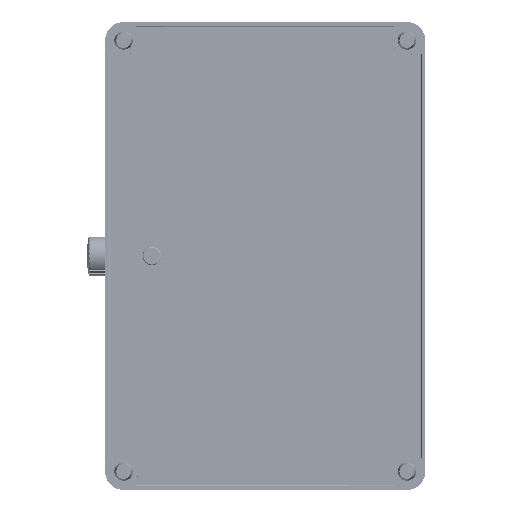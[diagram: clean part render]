
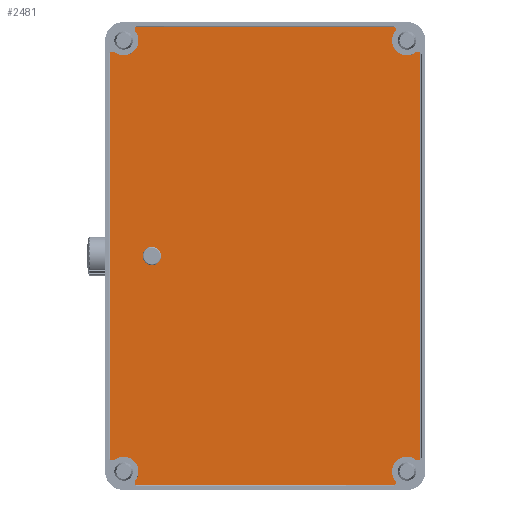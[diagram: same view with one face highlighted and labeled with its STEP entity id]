
A CAD part, top view. The second image highlights one B-rep face of the part: STEP entity #2481.
In plain terms, the highlighted planar face has unit normal (0, 0, 1).
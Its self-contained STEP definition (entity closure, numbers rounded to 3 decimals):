
#1355=DIRECTION('',(0.,1.,0.));
#1356=VECTOR('',#1355,330.472);
#1357=CARTESIAN_POINT('',(-406.905,494.301,344.));
#1358=LINE('',#1357,#1356);
#1370=CARTESIAN_POINT('',(-429.905,843.537,344.));
#1371=DIRECTION('',(0.,0.,-1.));
#1372=DIRECTION('',(0.745,0.667,0.));
#1373=AXIS2_PLACEMENT_3D('',#1370,#1371,#1372);
#1375=CARTESIAN_POINT('',(-429.905,843.537,344.));
#1376=DIRECTION('',(0.,0.,-1.));
#1377=DIRECTION('',(1.,0.,0.));
#1378=AXIS2_PLACEMENT_3D('',#1375,#1376,#1377);
#1380=CARTESIAN_POINT('',(-417.905,834.537,344.));
#1381=DIRECTION('',(0.,0.,1.));
#1382=DIRECTION('',(-0.8,0.6,0.));
#1383=AXIS2_PLACEMENT_3D('',#1380,#1381,#1382);
#1385=CARTESIAN_POINT('',(-417.905,834.537,344.));
#1386=DIRECTION('',(0.,0.,1.));
#1387=DIRECTION('',(-1.,0.,0.));
#1388=AXIS2_PLACEMENT_3D('',#1385,#1386,#1387);
#1390=CARTESIAN_POINT('',(-408.905,822.537,344.));
#1391=DIRECTION('',(0.,0.,-1.));
#1392=DIRECTION('',(-0.6,0.8,0.));
#1393=AXIS2_PLACEMENT_3D('',#1390,#1391,#1392);
#1395=CARTESIAN_POINT('',(-408.905,496.537,344.));
#1396=DIRECTION('',(0.,0.,-1.));
#1397=DIRECTION('',(0.667,-0.745,0.));
#1398=AXIS2_PLACEMENT_3D('',#1395,#1396,#1397);
#1400=CARTESIAN_POINT('',(-417.905,484.537,344.));
#1401=DIRECTION('',(0.,0.,1.));
#1402=DIRECTION('',(0.6,0.8,0.));
#1403=AXIS2_PLACEMENT_3D('',#1400,#1401,#1402);
#1405=CARTESIAN_POINT('',(-417.905,484.537,344.));
#1406=DIRECTION('',(0.,0.,1.));
#1407=DIRECTION('',(-1.,0.,0.));
#1408=AXIS2_PLACEMENT_3D('',#1405,#1406,#1407);
#1410=CARTESIAN_POINT('',(-429.905,475.537,344.));
#1411=DIRECTION('',(0.,0.,-1.));
#1412=DIRECTION('',(0.8,0.6,0.));
#1413=AXIS2_PLACEMENT_3D('',#1410,#1411,#1412);
#1415=CARTESIAN_POINT('',(-429.905,475.537,344.));
#1416=DIRECTION('',(0.,0.,-1.));
#1417=DIRECTION('',(1.,0.,0.));
#1418=AXIS2_PLACEMENT_3D('',#1415,#1416,#1417);
#1420=CARTESIAN_POINT('',(-635.905,475.537,344.));
#1421=DIRECTION('',(0.,0.,-1.));
#1422=DIRECTION('',(-0.745,-0.667,0.));
#1423=AXIS2_PLACEMENT_3D('',#1420,#1421,#1422);
#1425=CARTESIAN_POINT('',(-635.905,475.537,344.));
#1426=DIRECTION('',(0.,0.,-1.));
#1427=DIRECTION('',(-1.,0.,0.));
#1428=AXIS2_PLACEMENT_3D('',#1425,#1426,#1427);
#1430=CARTESIAN_POINT('',(-647.905,484.537,344.));
#1431=DIRECTION('',(0.,0.,1.));
#1432=DIRECTION('',(0.8,-0.6,0.));
#1433=AXIS2_PLACEMENT_3D('',#1430,#1431,#1432);
#1435=CARTESIAN_POINT('',(-647.905,484.537,344.));
#1436=DIRECTION('',(0.,0.,1.));
#1437=DIRECTION('',(1.,0.,0.));
#1438=AXIS2_PLACEMENT_3D('',#1435,#1436,#1437);
#1440=CARTESIAN_POINT('',(-656.905,496.537,344.));
#1441=DIRECTION('',(0.,0.,-1.));
#1442=DIRECTION('',(0.6,-0.8,0.));
#1443=AXIS2_PLACEMENT_3D('',#1440,#1441,#1442);
#1445=CARTESIAN_POINT('',(-656.905,822.537,344.));
#1446=DIRECTION('',(0.,0.,-1.));
#1447=DIRECTION('',(-0.667,0.745,0.));
#1448=AXIS2_PLACEMENT_3D('',#1445,#1446,#1447);
#1450=CARTESIAN_POINT('',(-647.905,834.537,344.));
#1451=DIRECTION('',(0.,0.,1.));
#1452=DIRECTION('',(-0.6,-0.8,0.));
#1453=AXIS2_PLACEMENT_3D('',#1450,#1451,#1452);
#1455=CARTESIAN_POINT('',(-647.905,834.537,344.));
#1456=DIRECTION('',(0.,0.,1.));
#1457=DIRECTION('',(1.,0.,0.));
#1458=AXIS2_PLACEMENT_3D('',#1455,#1456,#1457);
#1460=CARTESIAN_POINT('',(-635.905,843.537,344.));
#1461=DIRECTION('',(0.,0.,-1.));
#1462=DIRECTION('',(-0.8,-0.6,0.));
#1463=AXIS2_PLACEMENT_3D('',#1460,#1461,#1462);
#1465=CARTESIAN_POINT('',(-635.905,843.537,344.));
#1466=DIRECTION('',(0.,0.,-1.));
#1467=DIRECTION('',(-1.,0.,0.));
#1468=AXIS2_PLACEMENT_3D('',#1465,#1466,#1467);
#1470=CARTESIAN_POINT('',(-624.905,659.537,344.));
#1471=DIRECTION('',(0.,0.,1.));
#1472=DIRECTION('',(-1.,0.,0.));
#1473=AXIS2_PLACEMENT_3D('',#1470,#1471,#1472);
#1475=CARTESIAN_POINT('',(-624.905,659.537,344.));
#1476=DIRECTION('',(0.,0.,1.));
#1477=DIRECTION('',(1.,0.,0.));
#1478=AXIS2_PLACEMENT_3D('',#1475,#1476,#1477);
#1491=DIRECTION('',(-1.,0.,0.));
#1492=VECTOR('',#1491,210.472);
#1493=CARTESIAN_POINT('',(-427.669,845.537,344.));
#1494=LINE('',#1493,#1492);
#1547=DIRECTION('',(0.,-1.,0.));
#1548=VECTOR('',#1547,330.472);
#1549=CARTESIAN_POINT('',(-658.905,824.773,344.));
#1550=LINE('',#1549,#1548);
#1586=DIRECTION('',(1.,0.,0.));
#1587=VECTOR('',#1586,210.472);
#1588=CARTESIAN_POINT('',(-638.141,473.537,344.));
#1589=LINE('',#1588,#1587);
#1837=CARTESIAN_POINT('',(-406.905,494.301,344.));
#1838=CARTESIAN_POINT('',(-406.905,824.773,344.));
#1839=VERTEX_POINT('',#1837);
#1840=VERTEX_POINT('',#1838);
#1841=CARTESIAN_POINT('',(-427.669,845.537,344.));
#1842=CARTESIAN_POINT('',(-638.141,845.537,344.));
#1843=VERTEX_POINT('',#1841);
#1844=VERTEX_POINT('',#1842);
#1845=CARTESIAN_POINT('',(-426.905,843.537,344.));
#1846=VERTEX_POINT('',#1845);
#1847=CARTESIAN_POINT('',(-427.505,841.737,344.));
#1848=VERTEX_POINT('',#1847);
#1849=CARTESIAN_POINT('',(-429.905,834.537,344.));
#1850=VERTEX_POINT('',#1849);
#1851=CARTESIAN_POINT('',(-410.705,824.937,344.));
#1852=VERTEX_POINT('',#1851);
#1853=CARTESIAN_POINT('',(-410.705,494.137,344.));
#1854=VERTEX_POINT('',#1853);
#1855=CARTESIAN_POINT('',(-429.905,484.537,344.));
#1856=VERTEX_POINT('',#1855);
#1857=CARTESIAN_POINT('',(-427.505,477.337,344.));
#1858=VERTEX_POINT('',#1857);
#1859=CARTESIAN_POINT('',(-426.905,475.537,344.));
#1860=VERTEX_POINT('',#1859);
#1861=CARTESIAN_POINT('',(-427.669,473.537,344.));
#1862=VERTEX_POINT('',#1861);
#1863=CARTESIAN_POINT('',(-638.141,473.537,344.));
#1864=VERTEX_POINT('',#1863);
#1865=CARTESIAN_POINT('',(-638.905,475.537,344.));
#1866=VERTEX_POINT('',#1865);
#1867=CARTESIAN_POINT('',(-638.305,477.337,344.));
#1868=VERTEX_POINT('',#1867);
#1869=CARTESIAN_POINT('',(-635.905,484.537,344.));
#1870=VERTEX_POINT('',#1869);
#1871=CARTESIAN_POINT('',(-655.105,494.137,344.));
#1872=VERTEX_POINT('',#1871);
#1873=CARTESIAN_POINT('',(-658.905,494.301,344.));
#1874=VERTEX_POINT('',#1873);
#1875=CARTESIAN_POINT('',(-658.905,824.773,344.));
#1876=VERTEX_POINT('',#1875);
#1877=CARTESIAN_POINT('',(-655.105,824.937,344.));
#1878=VERTEX_POINT('',#1877);
#1879=CARTESIAN_POINT('',(-635.905,834.537,344.));
#1880=VERTEX_POINT('',#1879);
#1881=CARTESIAN_POINT('',(-638.305,841.737,344.));
#1882=VERTEX_POINT('',#1881);
#1883=CARTESIAN_POINT('',(-638.905,843.537,344.));
#1884=VERTEX_POINT('',#1883);
#1885=CARTESIAN_POINT('',(-629.905,659.537,344.));
#1886=CARTESIAN_POINT('',(-619.905,659.537,344.));
#1887=VERTEX_POINT('',#1885);
#1888=VERTEX_POINT('',#1886);
#2421=CARTESIAN_POINT('',(-402.905,849.537,344.));
#2422=DIRECTION('',(0.,0.,1.));
#2423=DIRECTION('',(1.,0.,0.));
#2424=AXIS2_PLACEMENT_3D('',#2421,#2422,#2423);
#2425=PLANE('',#2424);
#2427=ORIENTED_EDGE('',*,*,#2426,.F.);
#2429=ORIENTED_EDGE('',*,*,#2428,.T.);
#2431=ORIENTED_EDGE('',*,*,#2430,.T.);
#2433=ORIENTED_EDGE('',*,*,#2432,.T.);
#2435=ORIENTED_EDGE('',*,*,#2434,.T.);
#2437=ORIENTED_EDGE('',*,*,#2436,.T.);
#2438=ORIENTED_EDGE('',*,*,#2411,.F.);
#2440=ORIENTED_EDGE('',*,*,#2439,.T.);
#2442=ORIENTED_EDGE('',*,*,#2441,.T.);
#2444=ORIENTED_EDGE('',*,*,#2443,.T.);
#2446=ORIENTED_EDGE('',*,*,#2445,.T.);
#2448=ORIENTED_EDGE('',*,*,#2447,.T.);
#2450=ORIENTED_EDGE('',*,*,#2449,.F.);
#2452=ORIENTED_EDGE('',*,*,#2451,.T.);
#2454=ORIENTED_EDGE('',*,*,#2453,.T.);
#2456=ORIENTED_EDGE('',*,*,#2455,.T.);
#2458=ORIENTED_EDGE('',*,*,#2457,.T.);
#2460=ORIENTED_EDGE('',*,*,#2459,.T.);
#2462=ORIENTED_EDGE('',*,*,#2461,.F.);
#2464=ORIENTED_EDGE('',*,*,#2463,.T.);
#2466=ORIENTED_EDGE('',*,*,#2465,.T.);
#2468=ORIENTED_EDGE('',*,*,#2467,.T.);
#2470=ORIENTED_EDGE('',*,*,#2469,.T.);
#2472=ORIENTED_EDGE('',*,*,#2471,.T.);
#2473=EDGE_LOOP('',(#2427,#2429,#2431,#2433,#2435,#2437,#2438,#2440,#2442,#2444,
#2446,#2448,#2450,#2452,#2454,#2456,#2458,#2460,#2462,#2464,#2466,#2468,#2470,
#2472));
#2474=FACE_OUTER_BOUND('',#2473,.F.);
#2476=ORIENTED_EDGE('',*,*,#2475,.T.);
#2478=ORIENTED_EDGE('',*,*,#2477,.T.);
#2479=EDGE_LOOP('',(#2476,#2478));
#2480=FACE_BOUND('',#2479,.F.);
#2481=ADVANCED_FACE('',(#2474,#2480),#2425,.T.);
#1374=CIRCLE('',#1373,3.);
#1379=CIRCLE('',#1378,3.);
#1384=CIRCLE('',#1383,12.);
#1389=CIRCLE('',#1388,12.);
#1394=CIRCLE('',#1393,3.);
#1399=CIRCLE('',#1398,3.);
#1404=CIRCLE('',#1403,12.);
#1409=CIRCLE('',#1408,12.);
#1414=CIRCLE('',#1413,3.);
#1419=CIRCLE('',#1418,3.);
#1424=CIRCLE('',#1423,3.);
#1429=CIRCLE('',#1428,3.);
#1434=CIRCLE('',#1433,12.);
#1439=CIRCLE('',#1438,12.);
#1444=CIRCLE('',#1443,3.);
#1449=CIRCLE('',#1448,3.);
#1454=CIRCLE('',#1453,12.);
#1459=CIRCLE('',#1458,12.);
#1464=CIRCLE('',#1463,3.);
#1469=CIRCLE('',#1468,3.);
#1474=CIRCLE('',#1473,5.);
#1479=CIRCLE('',#1478,5.);
#2411=EDGE_CURVE('',#1839,#1840,#1358,.T.);
#2426=EDGE_CURVE('',#1843,#1844,#1494,.T.);
#2428=EDGE_CURVE('',#1843,#1846,#1374,.T.);
#2430=EDGE_CURVE('',#1846,#1848,#1379,.T.);
#2432=EDGE_CURVE('',#1848,#1850,#1384,.T.);
#2434=EDGE_CURVE('',#1850,#1852,#1389,.T.);
#2436=EDGE_CURVE('',#1852,#1840,#1394,.T.);
#2439=EDGE_CURVE('',#1839,#1854,#1399,.T.);
#2441=EDGE_CURVE('',#1854,#1856,#1404,.T.);
#2443=EDGE_CURVE('',#1856,#1858,#1409,.T.);
#2445=EDGE_CURVE('',#1858,#1860,#1414,.T.);
#2447=EDGE_CURVE('',#1860,#1862,#1419,.T.);
#2449=EDGE_CURVE('',#1864,#1862,#1589,.T.);
#2451=EDGE_CURVE('',#1864,#1866,#1424,.T.);
#2453=EDGE_CURVE('',#1866,#1868,#1429,.T.);
#2455=EDGE_CURVE('',#1868,#1870,#1434,.T.);
#2457=EDGE_CURVE('',#1870,#1872,#1439,.T.);
#2459=EDGE_CURVE('',#1872,#1874,#1444,.T.);
#2461=EDGE_CURVE('',#1876,#1874,#1550,.T.);
#2463=EDGE_CURVE('',#1876,#1878,#1449,.T.);
#2465=EDGE_CURVE('',#1878,#1880,#1454,.T.);
#2467=EDGE_CURVE('',#1880,#1882,#1459,.T.);
#2469=EDGE_CURVE('',#1882,#1884,#1464,.T.);
#2471=EDGE_CURVE('',#1884,#1844,#1469,.T.);
#2475=EDGE_CURVE('',#1887,#1888,#1474,.T.);
#2477=EDGE_CURVE('',#1888,#1887,#1479,.T.);
